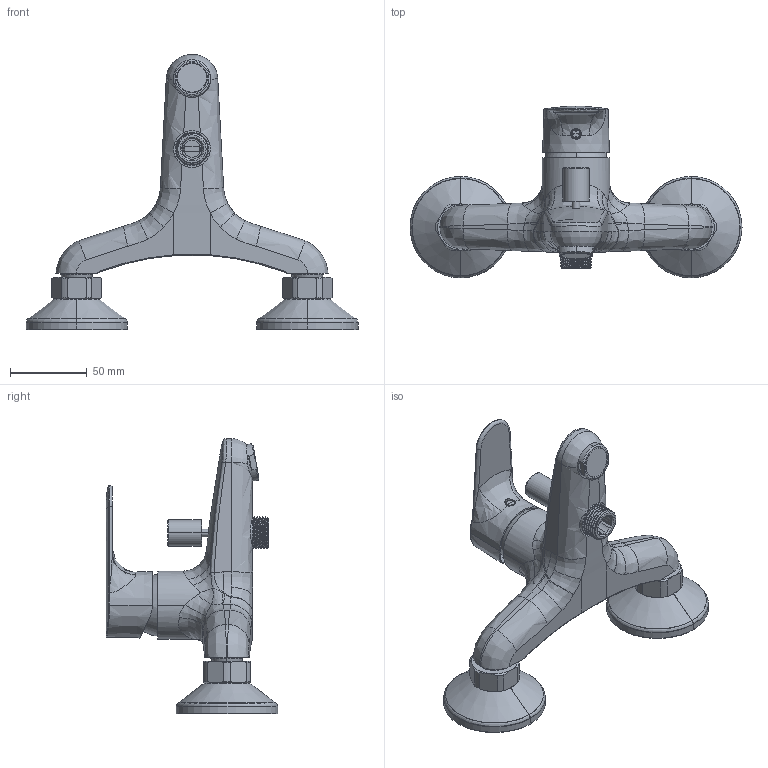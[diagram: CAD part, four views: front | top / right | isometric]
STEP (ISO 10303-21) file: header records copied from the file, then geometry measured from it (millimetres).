
FILE_DESCRIPTION((''),'2;1');
FILE_NAME('F3834_1CR_FILE_3D','2017-10-03T',('ivanv'),(''),'CREO PARAMETRIC BY PTC INC, 2016260','CREO PARAMETRIC BY PTC INC, 2016260','');
FILE_SCHEMA(('CONFIG_CONTROL_DESIGN'));
Length unit declared in the file: millimetre
Products named in the file (1): F3834_1CR_FILE_3D
Bounding box: 216 x 111.5 x 179 mm (x, y, z)
Volume: 157671.1 mm3; surface area: 120096.1 mm2
Topology: 2 solids, 3 shells, 1842 faces, 4696 edges, 2921 vertices
Faces by surface type: plane 834, cylinder 361, bspline 319, cone 159, torus 113, sphere 56
Entity records: 104724 total; most frequent: CARTESIAN_POINT 63828, ORIENTED_EDGE 9384, DIRECTION 7256, EDGE_CURVE 4692, VERTEX_POINT 2921, AXIS2_PLACEMENT_3D 2664, EDGE_LOOP 1935, VECTOR 1928
